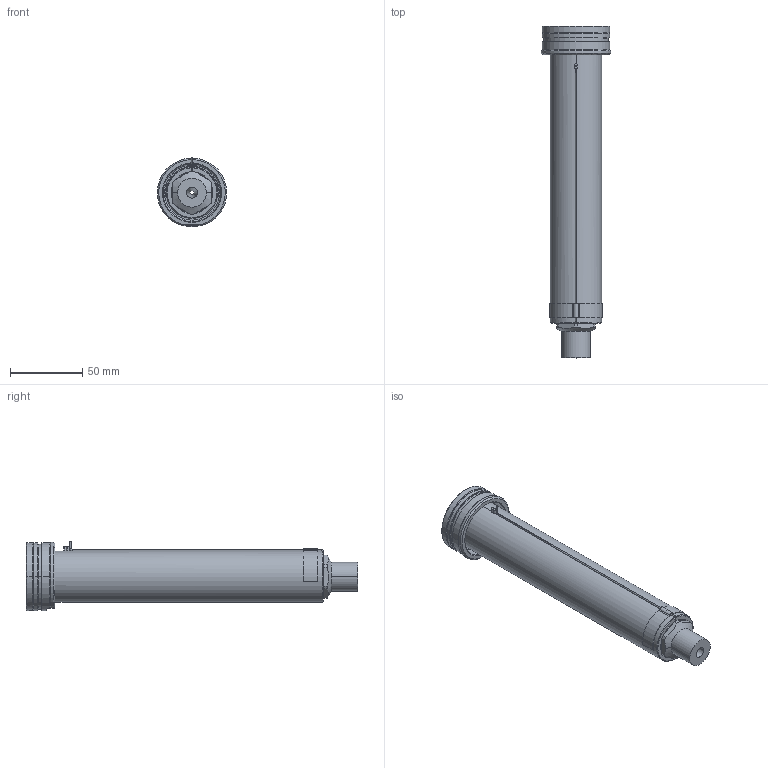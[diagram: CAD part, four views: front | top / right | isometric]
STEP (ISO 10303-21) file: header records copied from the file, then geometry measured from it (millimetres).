
FILE_DESCRIPTION((''),'2;1');
FILE_NAME('EO16_SG_ESG_200_SW','2024-02-19T12:36:00',('sundharh'),(''),'CREO PARAMETRIC BY PTC INC, 2023154','CREO PARAMETRIC BY PTC INC, 2023154','');
FILE_SCHEMA(('CONFIG_CONTROL_DESIGN'));
Length unit declared in the file: millimetre
Products named in the file (1): EO16_SG_ESG_200_SW
Bounding box: 47.97 x 230 x 48 mm (x, y, z)
Volume: 183015.1 mm3; surface area: 43923.1 mm2
Topology: 1 solids, 1 shells, 164 faces, 403 edges, 245 vertices
Faces by surface type: cylinder 64, plane 45, cone 31, torus 14, bspline 7, sphere 3
Entity records: 5609 total; most frequent: CARTESIAN_POINT 1678, DIRECTION 868, ORIENTED_EDGE 790, EDGE_CURVE 395, AXIS2_PLACEMENT_3D 358, VERTEX_POINT 245, CIRCLE 201, EDGE_LOOP 180
